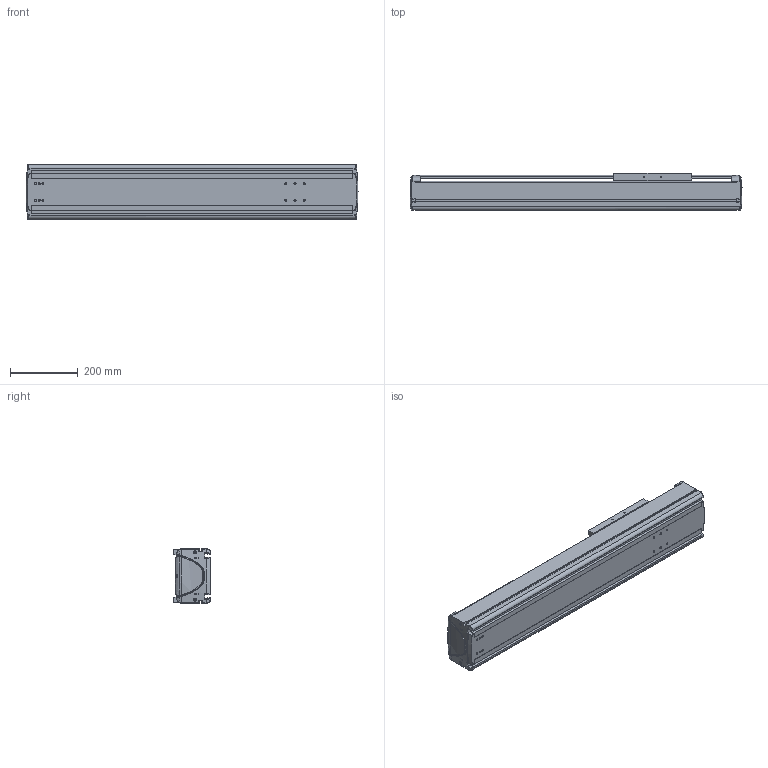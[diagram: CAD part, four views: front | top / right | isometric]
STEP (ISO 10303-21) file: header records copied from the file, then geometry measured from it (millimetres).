
FILE_DESCRIPTION((''),'2;1');
FILE_NAME('BE50G-ST-L_N-55_IGS_PRT','2017-06-18T',(' '),(''),'PRO/ENGINEER BY PARAMETRIC TECHNOLOGY CORPORATION, 2015030','PRO/ENGINEER BY PARAMETRIC TECHNOLOGY CORPORATION, 2015030','');
FILE_SCHEMA(('CONFIG_CONTROL_DESIGN'));
Length unit declared in the file: millimetre
Products named in the file (1): BE50G-ST-L_N-55_IGS_PRT
Bounding box: 979.98 x 110 x 160 mm (x, y, z)
Volume: 4662358.8 mm3; surface area: 1554442.1 mm2
Topology: 2 solids, 79 shells, 1588 faces, 4182 edges, 2673 vertices
Faces by surface type: cylinder 676, plane 617, bspline 102, torus 87, cone 66, sphere 40
Entity records: 54447 total; most frequent: CARTESIAN_POINT 15618, ORIENTED_EDGE 7992, DIRECTION 7970, EDGE_CURVE 4150, AXIS2_PLACEMENT_3D 2964, VERTEX_POINT 2671, VECTOR 2042, LINE 2042
